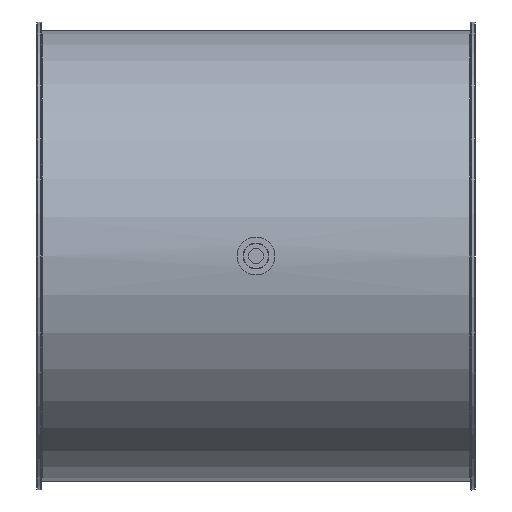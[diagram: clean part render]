
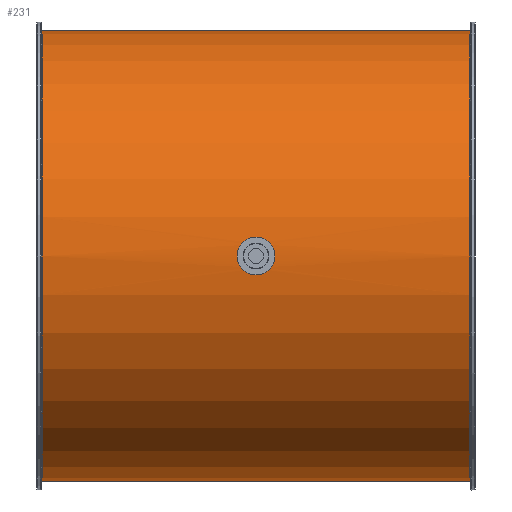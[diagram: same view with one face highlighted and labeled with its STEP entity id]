
A CAD part, front view. The second image highlights one B-rep face of the part: STEP entity #231.
In plain terms, the highlighted cylindrical face has radius 226 mm (diameter 452 mm), a full revolution.
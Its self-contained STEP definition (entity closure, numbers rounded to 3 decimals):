
#103=B_SPLINE_CURVE_WITH_KNOTS('',3,(#1415,#1416,#1417,#1418,#1419,#1420,
#1421,#1422,#1423,#1424,#1425,#1426,#1427,#1428,#1429,#1430,#1431,#1432),
 .UNSPECIFIED.,.T.,.F.,(2,2,2,2,2,2,2,2,2,2,2),(-0.125,0.,0.125,
0.25,0.375,0.5,0.625,
0.75,0.875,1.,1.125),.UNSPECIFIED.);
#104=B_SPLINE_CURVE_WITH_KNOTS('',3,(#1434,#1435,#1436,#1437,#1438,#1439,
#1440,#1441,#1442,#1443,#1444,#1445,#1446,#1447,#1448,#1449,#1450,#1451),
 .UNSPECIFIED.,.T.,.F.,(2,2,2,2,2,2,2,2,2,2,2),(-0.125,0.,0.125,
0.25,0.375,0.5,0.625,
0.75,0.875,1.,1.125),.UNSPECIFIED.);
#195=CYLINDRICAL_SURFACE('',#984,226.);
#231=ADVANCED_FACE('',(#335,#336,#337,#338),#195,.T.);
#335=FACE_BOUND('',#449,.T.);
#336=FACE_BOUND('',#450,.T.);
#337=FACE_BOUND('',#451,.T.);
#338=FACE_BOUND('',#452,.T.);
#449=EDGE_LOOP('',(#591));
#450=EDGE_LOOP('',(#592));
#451=EDGE_LOOP('',(#593));
#452=EDGE_LOOP('',(#594));
#591=ORIENTED_EDGE('',*,*,#821,.T.);
#592=ORIENTED_EDGE('',*,*,#822,.F.);
#593=ORIENTED_EDGE('',*,*,#823,.F.);
#594=ORIENTED_EDGE('',*,*,#824,.T.);
#739=VERTEX_POINT('',#1414);
#740=VERTEX_POINT('',#1433);
#741=VERTEX_POINT('',#1452);
#742=VERTEX_POINT('',#1454);
#821=EDGE_CURVE('',#739,#739,#903,.T.);
#822=EDGE_CURVE('',#740,#740,#103,.T.);
#823=EDGE_CURVE('',#741,#741,#104,.T.);
#824=EDGE_CURVE('',#742,#742,#904,.T.);
#903=CIRCLE('',#982,226.);
#904=CIRCLE('',#983,226.);
#982=AXIS2_PLACEMENT_3D('',#1413,#1152,#1153);
#983=AXIS2_PLACEMENT_3D('',#1453,#1154,#1155);
#984=AXIS2_PLACEMENT_3D('',#1455,#1156,#1157);
#1152=DIRECTION('',(-1.,0.,0.));
#1153=DIRECTION('',(0.,0.,-1.));
#1154=DIRECTION('',(1.,0.,0.));
#1155=DIRECTION('',(0.,0.,1.));
#1156=DIRECTION('',(1.,0.,0.));
#1157=DIRECTION('',(0.,0.,-1.));
#1413=CARTESIAN_POINT('',(214.83,-109.,125.));
#1414=CARTESIAN_POINT('',(214.83,-109.,-101.));
#1415=CARTESIAN_POINT('',(3.436,116.626,112.));
#1416=CARTESIAN_POINT('',(-3.436,116.626,112.));
#1417=CARTESIAN_POINT('',(-6.795,116.715,113.41));
#1418=CARTESIAN_POINT('',(-11.591,116.911,118.207));
#1419=CARTESIAN_POINT('',(-12.998,117.,121.601));
#1420=CARTESIAN_POINT('',(-13.002,117.,128.385));
#1421=CARTESIAN_POINT('',(-11.623,116.912,131.76));
#1422=CARTESIAN_POINT('',(-6.771,116.714,136.616));
#1423=CARTESIAN_POINT('',(-3.398,116.626,137.999));
#1424=CARTESIAN_POINT('',(3.389,116.626,138.001));
#1425=CARTESIAN_POINT('',(6.784,116.715,136.596));
#1426=CARTESIAN_POINT('',(11.583,116.91,131.806));
#1427=CARTESIAN_POINT('',(12.997,117.,128.444));
#1428=CARTESIAN_POINT('',(13.003,117.,121.582));
#1429=CARTESIAN_POINT('',(11.597,116.911,118.216));
#1430=CARTESIAN_POINT('',(6.802,116.716,113.414));
#1431=CARTESIAN_POINT('',(3.436,116.626,112.));
#1432=CARTESIAN_POINT('',(-3.436,116.626,112.));
#1433=CARTESIAN_POINT('',(0.,116.626,112.));
#1434=CARTESIAN_POINT('',(-3.436,-334.626,112.));
#1435=CARTESIAN_POINT('',(3.436,-334.626,112.));
#1436=CARTESIAN_POINT('',(6.795,-334.715,113.41));
#1437=CARTESIAN_POINT('',(11.591,-334.911,118.207));
#1438=CARTESIAN_POINT('',(12.998,-335.,121.601));
#1439=CARTESIAN_POINT('',(13.002,-335.,128.385));
#1440=CARTESIAN_POINT('',(11.623,-334.912,131.76));
#1441=CARTESIAN_POINT('',(6.771,-334.714,136.616));
#1442=CARTESIAN_POINT('',(3.398,-334.626,137.999));
#1443=CARTESIAN_POINT('',(-3.389,-334.626,138.001));
#1444=CARTESIAN_POINT('',(-6.784,-334.715,136.596));
#1445=CARTESIAN_POINT('',(-11.583,-334.91,131.806));
#1446=CARTESIAN_POINT('',(-12.997,-335.,128.444));
#1447=CARTESIAN_POINT('',(-13.003,-335.,121.582));
#1448=CARTESIAN_POINT('',(-11.597,-334.911,118.216));
#1449=CARTESIAN_POINT('',(-6.802,-334.716,113.414));
#1450=CARTESIAN_POINT('',(-3.436,-334.626,112.));
#1451=CARTESIAN_POINT('',(3.436,-334.626,112.));
#1452=CARTESIAN_POINT('',(0.,-334.626,112.));
#1453=CARTESIAN_POINT('',(-214.83,-109.,125.));
#1454=CARTESIAN_POINT('',(-214.83,-109.,351.));
#1455=CARTESIAN_POINT('',(-220.,-109.,125.));
